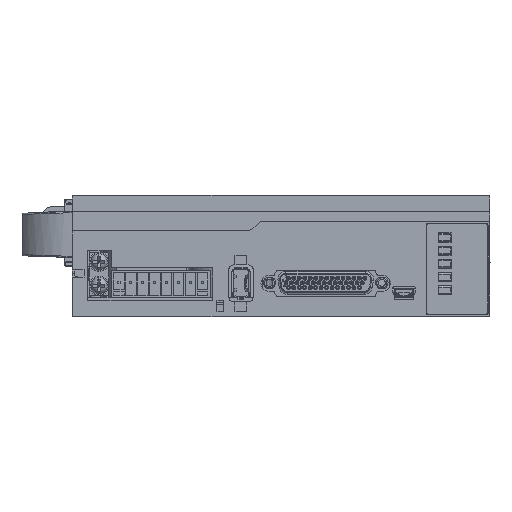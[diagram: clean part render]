
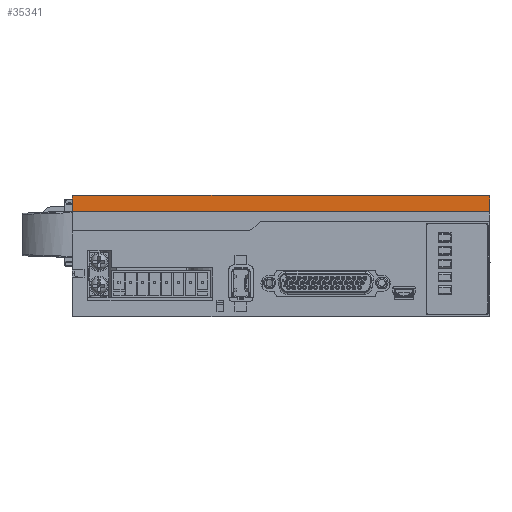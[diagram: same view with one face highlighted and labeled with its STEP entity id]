
A CAD part, front view. The second image highlights one B-rep face of the part: STEP entity #35341.
In plain terms, the highlighted planar face has unit normal (0, -1, 0).
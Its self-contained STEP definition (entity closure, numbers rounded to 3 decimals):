
#402=CARTESIAN_POINT('',(87.2,0.,25.2));
#403=DIRECTION('',(0.,-1.,0.));
#404=DIRECTION('',(1.,0.,0.));
#405=AXIS2_PLACEMENT_3D('',#402,#403,#404);
#410=DIRECTION('',(0.,0.,-1.));
#411=VECTOR('',#410,6.7);
#412=CARTESIAN_POINT('',(87.5,0.,25.2));
#413=LINE('',#412,#411);
#417=DIRECTION('',(1.,0.,0.));
#418=VECTOR('',#417,175.);
#419=CARTESIAN_POINT('',(-87.5,0.,18.5));
#420=LINE('',#419,#418);
#424=DIRECTION('',(0.,0.,-1.));
#425=VECTOR('',#424,6.7);
#426=CARTESIAN_POINT('',(-87.5,0.,25.2));
#427=LINE('',#426,#425);
#431=CARTESIAN_POINT('',(-87.2,0.,25.2));
#432=DIRECTION('',(0.,-1.,0.));
#433=DIRECTION('',(0.,0.,1.));
#434=AXIS2_PLACEMENT_3D('',#431,#432,#433);
#1653=DIRECTION('',(-1.,0.,0.));
#1654=VECTOR('',#1653,174.4);
#1655=CARTESIAN_POINT('',(87.2,0.,25.5));
#1656=LINE('',#1655,#1654);
#33087=CARTESIAN_POINT('',(-87.5,0.,18.5));
#33088=CARTESIAN_POINT('',(87.5,0.,18.5));
#33089=VERTEX_POINT('',#33087);
#33090=VERTEX_POINT('',#33088);
#34171=CARTESIAN_POINT('',(87.5,0.,25.2));
#34172=CARTESIAN_POINT('',(87.2,0.,25.5));
#34173=VERTEX_POINT('',#34171);
#34174=VERTEX_POINT('',#34172);
#34196=CARTESIAN_POINT('',(-87.2,0.,25.5));
#34197=VERTEX_POINT('',#34196);
#34198=CARTESIAN_POINT('',(-87.5,0.,25.2));
#34199=VERTEX_POINT('',#34198);
#35322=CARTESIAN_POINT('',(0.,0.,0.));
#35323=DIRECTION('',(0.,1.,0.));
#35324=DIRECTION('',(1.,0.,0.));
#35325=AXIS2_PLACEMENT_3D('',#35322,#35323,#35324);
#35326=PLANE('',#35325);
#35328=ORIENTED_EDGE('',*,*,#35327,.F.);
#35330=ORIENTED_EDGE('',*,*,#35329,.T.);
#35332=ORIENTED_EDGE('',*,*,#35331,.F.);
#35334=ORIENTED_EDGE('',*,*,#35333,.F.);
#35336=ORIENTED_EDGE('',*,*,#35335,.F.);
#35338=ORIENTED_EDGE('',*,*,#35337,.F.);
#35339=EDGE_LOOP('',(#35328,#35330,#35332,#35334,#35336,#35338));
#35340=FACE_OUTER_BOUND('',#35339,.F.);
#406=CIRCLE('',#405,0.3);
#435=CIRCLE('',#434,0.3);
#35327=EDGE_CURVE('',#34173,#34174,#406,.T.);
#35329=EDGE_CURVE('',#34173,#33090,#413,.T.);
#35331=EDGE_CURVE('',#33089,#33090,#420,.T.);
#35333=EDGE_CURVE('',#34199,#33089,#427,.T.);
#35335=EDGE_CURVE('',#34197,#34199,#435,.T.);
#35337=EDGE_CURVE('',#34174,#34197,#1656,.T.);
#35341=ADVANCED_FACE('',(#35340),#35326,.F.);
